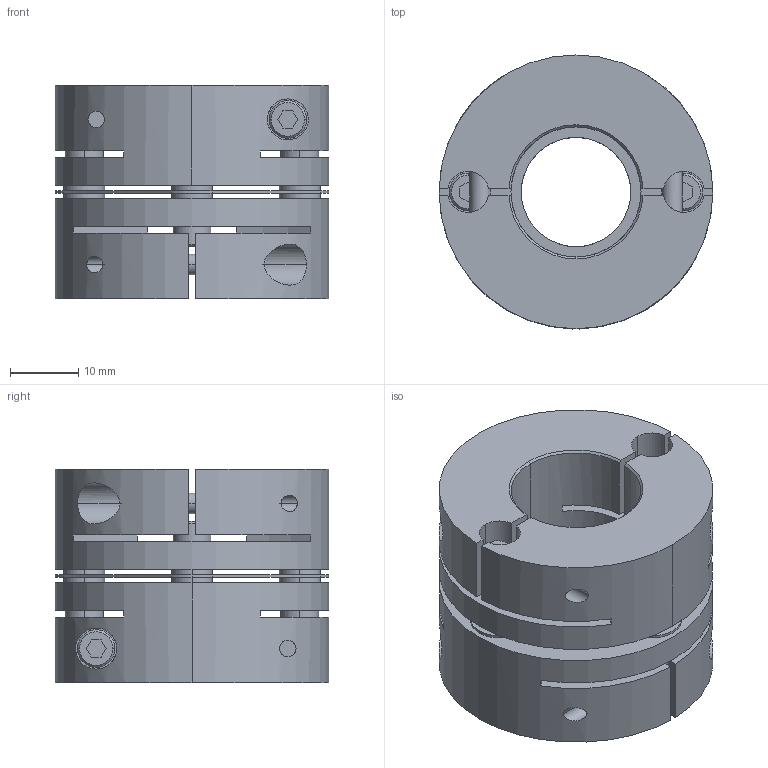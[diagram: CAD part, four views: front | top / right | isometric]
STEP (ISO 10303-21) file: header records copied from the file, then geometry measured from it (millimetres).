
FILE_DESCRIPTION((''),'2;1');
FILE_NAME('LAS-40C-16×19.stp','2011-08-11T09:09:05',(''),(''),'AutoCAD STEP 2000i','AutoCAD 2000i',', , ');
FILE_SCHEMA(('CONFIG_CONTROL_DESIGN'));
Length unit declared in the file: millimetre
Products named in the file (7): LAS-40C-15×15; 忣兜1; LA-4002-D15-1; LA-4002-D15; LA-4002-D10-1; LA-4002-D10; LAS40-ITA
Assembly tree (6 placements, depth 2):
  LAS-40C-15×15
    忣兜1
    LA-4002-D15-1
    LA-4002-D15
    LA-4002-D10-1
    LA-4002-D10
    LAS40-ITA
Bounding box: 40 x 40 x 31.2 mm (x, y, z)
Volume: 27253.8 mm3; surface area: 14864.8 mm2
Topology: 1 solids, 1 shells, 236 faces, 624 edges, 408 vertices
Faces by surface type: plane 112, cylinder 96, cone 28
Entity records: 8247 total; most frequent: CARTESIAN_POINT 2027, DIRECTION 1306, ORIENTED_EDGE 1248, EDGE_CURVE 624, AXIS2_PLACEMENT_3D 479, VERTEX_POINT 408, VECTOR 348, LINE 348
